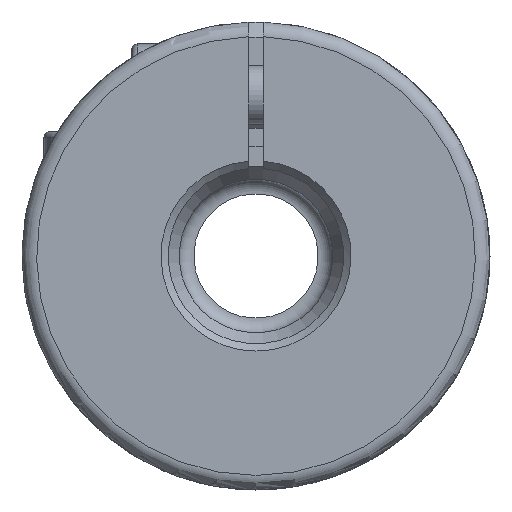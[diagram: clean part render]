
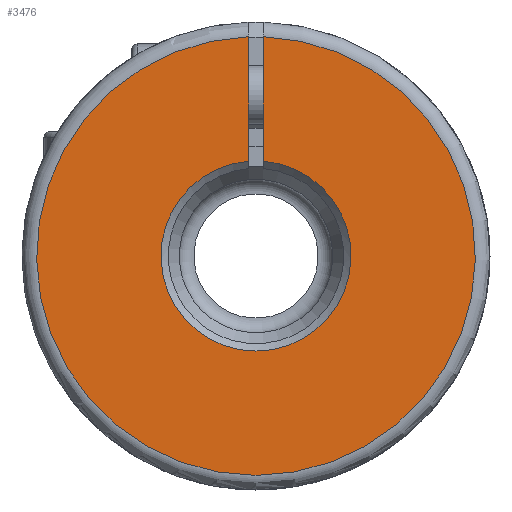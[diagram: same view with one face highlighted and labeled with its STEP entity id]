
A CAD part, left-side view. The second image highlights one B-rep face of the part: STEP entity #3476.
In plain terms, the highlighted planar face has unit normal (-1, 0, 0).
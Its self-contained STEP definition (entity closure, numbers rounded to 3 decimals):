
#35=PLANE('',#3760);
#222=CIRCLE('',#3721,6.5);
#243=CIRCLE('',#3761,15.);
#908=ORIENTED_EDGE('',*,*,#1355,.F.);
#909=ORIENTED_EDGE('',*,*,#1342,.F.);
#910=ORIENTED_EDGE('',*,*,#1351,.F.);
#911=ORIENTED_EDGE('',*,*,#1383,.F.);
#1342=EDGE_CURVE('',#1635,#1633,#222,.T.);
#1351=EDGE_CURVE('',#1641,#1635,#1756,.T.);
#1355=EDGE_CURVE('',#1633,#1643,#1759,.T.);
#1383=EDGE_CURVE('',#1643,#1641,#243,.T.);
#1633=VERTEX_POINT('',#5492);
#1635=VERTEX_POINT('',#5499);
#1641=VERTEX_POINT('',#5523);
#1643=VERTEX_POINT('',#5531);
#1756=LINE('',#5524,#1868);
#1759=LINE('',#5530,#1871);
#1868=VECTOR('',#4296,1000.);
#1871=VECTOR('',#4303,1000.);
#2062=EDGE_LOOP('',(#908,#909,#910,#911));
#2256=FACE_BOUND('',#2062,.T.);
#3476=ADVANCED_FACE('',(#2256),#35,.T.);
#3721=AXIS2_PLACEMENT_3D('',#5500,#4272,#4273);
#3760=AXIS2_PLACEMENT_3D('',#5611,#4360,#4361);
#3761=AXIS2_PLACEMENT_3D('',#5612,#4362,#4363);
#4272=DIRECTION('',(-1.,0.,0.));
#4273=DIRECTION('',(0.,-1.,0.));
#4296=DIRECTION('',(0.,0.,-1.));
#4303=DIRECTION('',(0.,0.,1.));
#4360=DIRECTION('',(-1.,0.,0.));
#4361=DIRECTION('',(0.,-1.,0.));
#4362=DIRECTION('',(1.,0.,0.));
#4363=DIRECTION('',(0.,1.,0.));
#5492=CARTESIAN_POINT('',(-15.,-0.5,6.481));
#5499=CARTESIAN_POINT('',(-15.,0.5,6.481));
#5500=CARTESIAN_POINT('',(-15.,0.,0.));
#5523=CARTESIAN_POINT('',(-15.,0.5,14.992));
#5524=CARTESIAN_POINT('',(-15.,0.5,0.));
#5530=CARTESIAN_POINT('',(-15.,-0.5,0.));
#5531=CARTESIAN_POINT('',(-15.,-0.5,14.992));
#5611=CARTESIAN_POINT('',(-15.,15.,0.));
#5612=CARTESIAN_POINT('',(-15.,0.,0.));
